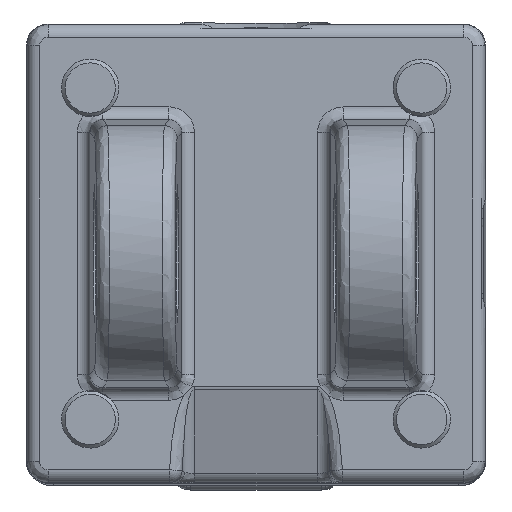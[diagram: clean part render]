
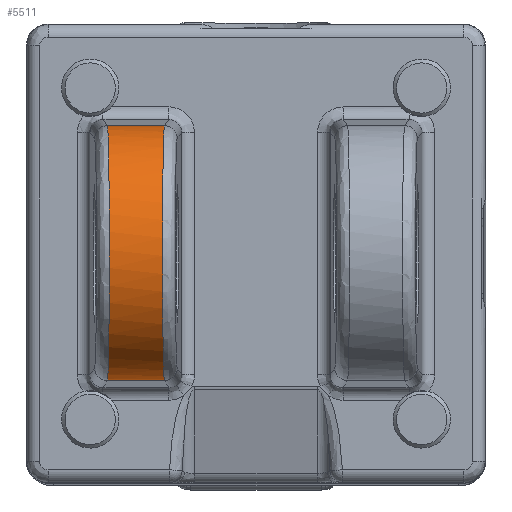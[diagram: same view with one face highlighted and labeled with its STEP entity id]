
A CAD part, top view. The second image highlights one B-rep face of the part: STEP entity #5511.
In plain terms, the highlighted cylindrical face has radius 23.812 mm (diameter 47.625 mm), a partial arc.
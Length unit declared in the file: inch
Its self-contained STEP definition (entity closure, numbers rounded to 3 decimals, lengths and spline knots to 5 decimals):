
#4216=CARTESIAN_POINT('',(-1.09279,0.93718,2.08704));
#4217=VERTEX_POINT('',#4216);
#4268=CARTESIAN_POINT('',(-1.09279,-0.93718,2.08704));
#4269=VERTEX_POINT('',#4268);
#4293=CARTESIAN_POINT('',(-0.67283,-0.93718,2.08704));
#4294=VERTEX_POINT('',#4293);
#4301=CARTESIAN_POINT('',(-1.09279,-0.93718,2.08704));
#4302=DIRECTION('',(1.0,0.0,0.0));
#4303=VECTOR('',#4302,0.41996);
#4304=LINE('',#4301,#4303);
#4305=EDGE_CURVE('',#4269,#4294,#4304,.T.);
#5366=CARTESIAN_POINT('',(-0.67283,0.93718,2.08704));
#5367=VERTEX_POINT('',#5366);
#5460=CARTESIAN_POINT('',(-0.67244,0.,2.0625));
#5461=DIRECTION('',(1.,0.,0.016));
#5462=DIRECTION('',(-0.016,0.,1.));
#5463=AXIS2_PLACEMENT_3D('',#5460,#5461,#5462);
#5464=ELLIPSE('',#5463,0.93762,0.9375);
#5465=EDGE_CURVE('',#5367,#4294,#5464,.T.);
#5489=CARTESIAN_POINT('',(0.0,0.0,2.0625));
#5490=DIRECTION('',(1.0,0.0,0.0));
#5491=DIRECTION('',(0.0,1.,0.026));
#5492=AXIS2_PLACEMENT_3D('',#5489,#5490,#5491);
#5493=CYLINDRICAL_SURFACE('',#5492,0.9375);
#5494=ORIENTED_EDGE('',*,*,#5465,.F.);
#5495=CARTESIAN_POINT('',(-1.09279,0.93718,2.08704));
#5496=DIRECTION('',(1.0,0.0,0.0));
#5497=VECTOR('',#5496,0.41996);
#5498=LINE('',#5495,#5497);
#5499=EDGE_CURVE('',#4217,#5367,#5498,.T.);
#5500=ORIENTED_EDGE('',*,*,#5499,.F.);
#5501=CARTESIAN_POINT('',(-1.09319,0.,2.0625));
#5502=DIRECTION('',(-1.,0.,0.016));
#5503=DIRECTION('',(0.016,0.,1.));
#5504=AXIS2_PLACEMENT_3D('',#5501,#5502,#5503);
#5505=ELLIPSE('',#5504,0.93762,0.9375);
#5506=EDGE_CURVE('',#4269,#4217,#5505,.T.);
#5507=ORIENTED_EDGE('',*,*,#5506,.F.);
#5508=ORIENTED_EDGE('',*,*,#4305,.T.);
#5509=EDGE_LOOP('',(#5494,#5500,#5507,#5508));
#5510=FACE_OUTER_BOUND('',#5509,.T.);
#5511=ADVANCED_FACE('',(#5510),#5493,.T.);
